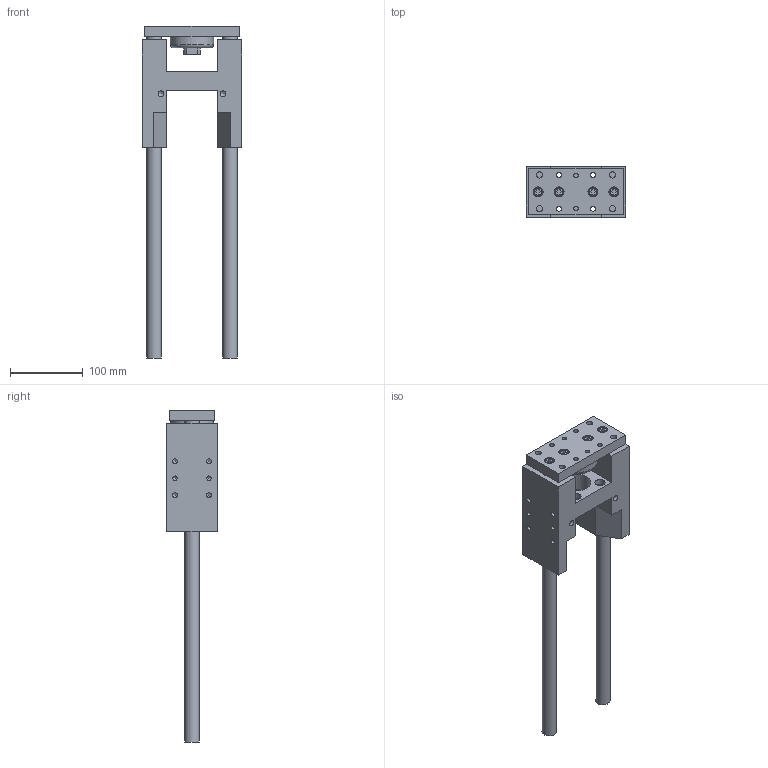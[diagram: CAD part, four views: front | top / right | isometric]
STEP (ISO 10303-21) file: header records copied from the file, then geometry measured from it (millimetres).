
FILE_DESCRIPTION(/* description */ ('STEP AP214'),/* implementation_level */ '2;1');
FILE_NAME(/* name */ 'GUH 50 250 BA(0)',/* time_stamp */ '2026-06-23T09:44:36+02:00',/* author */ ('License CC BY-ND 4.0'),/* organization */ ('CADENAS'),/* preprocessor_version */ 'ST-DEVELOPER v20',/* originating_system */ 'PARTsolutions',/* authorisation */ ' ');
FILE_SCHEMA (('AUTOMOTIVE_DESIGN {1 0 10303 214 3 1 1}'));
Length unit declared in the file: millimetre
Products named in the file (3): GUH 50 250 BA(0); GUH 50_body; GUH 50 250_plate
Assembly tree (2 placements, depth 2):
  GUH 50 250 BA(0)
    GUH 50_body
    GUH 50 250_plate
Bounding box: 137 x 69 x 455 mm (x, y, z)
Volume: 1066209.1 mm3; surface area: 193575.7 mm2
Topology: 2 solids, 2 shells, 165 faces, 389 edges, 255 vertices
Faces by surface type: plane 79, cylinder 61, cone 20, torus 5
Full cylindrical faces by diameter (mm): 6 x8, 6.647 x16, 8 x2, 8.5 x8, 12.8 x4, 13.5 x4, 13.8 x4, 14 x4, 14.376 x1, 20 x4, 40 x1, 59 x1
Entity records: 4901 total; most frequent: DIRECTION 738, CARTESIAN_POINT 686, ORIENTED_EDGE 550, FACE_BOUND 324, EDGE_LOOP 304, AXIS2_PLACEMENT_3D 295, EDGE_CURVE 275, VERTEX_POINT 243
